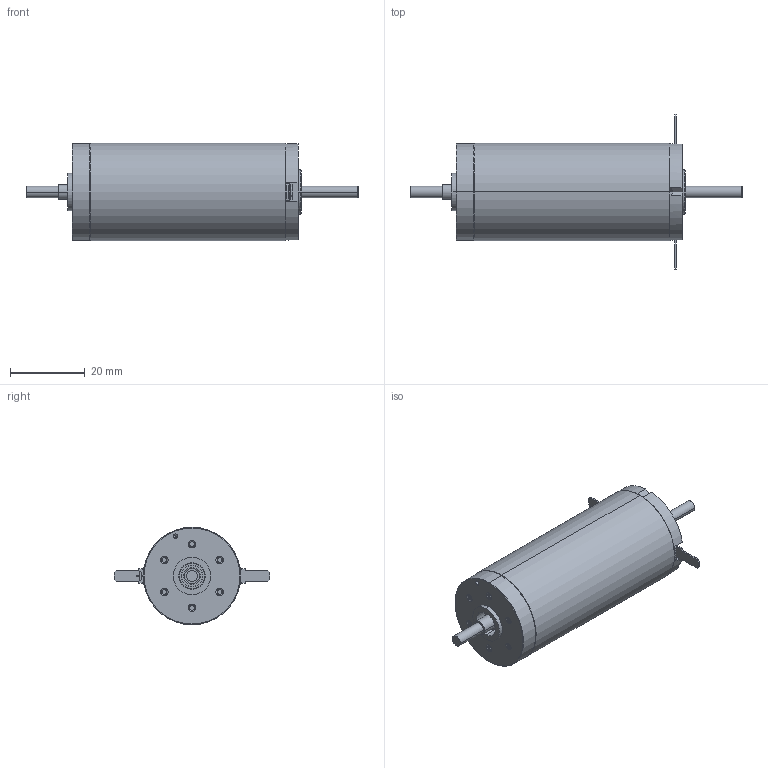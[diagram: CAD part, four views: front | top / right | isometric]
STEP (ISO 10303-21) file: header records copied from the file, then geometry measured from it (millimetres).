
FILE_DESCRIPTION(('no description'),'unknown implementation level');
FILE_NAME('maxon_PN_B7449A19608E_1.stp',' ',('maxon motor ag'),('CADClick - KiM GmbH - www.kimweb.de'),'unknown preprocess','ACIS','unknown authorization');
FILE_SCHEMA(('automotive_design'));
Length unit declared in the file: millimetre
Products named in the file (16): maxon_PN_B7449A19608E_1; maxon_PN_B7449A19608E_2; maxon_PN_B7449A19608E_3; maxon_PN_B7449A19608E_4; 1908272; maxon_PN_B7449A19608E_5; maxon_PN_B7449A19608E_6; maxon_PN_B7449A19608E_7; maxon_PN_B7449A19608E_8; maxon_PN_B7449A19608E
Bounding box: 88.55 x 41.5 x 26 mm (x, y, z)
Volume: 28413.8 mm3; surface area: 13795.2 mm2
Topology: 16 solids, 16 shells, 1296 faces, 3169 edges, 1973 vertices
Faces by surface type: plane 607, cone 330, cylinder 271, torus 74, bspline 12, sphere 2
Entity records: 74444 total; most frequent: DIRECTION 6797, CARTESIAN_POINT 6746, STYLED_ITEM 6451, PRESENTATION_STYLE_ASSIGNMENT 6451, COLOUR_RGB 6451, ORIENTED_EDGE 6334, EDGE_CURVE 3167, CURVE_STYLE 3167
